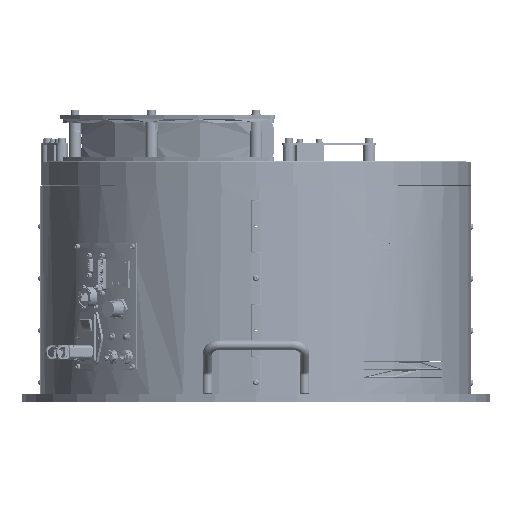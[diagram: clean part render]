
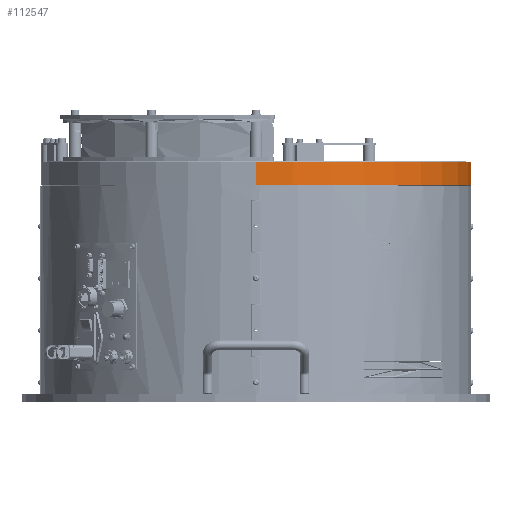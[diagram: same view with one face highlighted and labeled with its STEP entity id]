
A CAD part, top view. The second image highlights one B-rep face of the part: STEP entity #112547.
In plain terms, the highlighted cylindrical face has radius 266.5 mm (diameter 533 mm), a partial arc.
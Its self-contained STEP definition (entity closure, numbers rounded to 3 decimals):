
#4062 = VERTEX_POINT ( 'NONE', #342187 ) ;
#13442 = DIRECTION ( 'NONE',  ( 0., 0., -1. ) ) ;
#43405 = DIRECTION ( 'NONE',  ( 0., 0., 1. ) ) ;
#43703 = AXIS2_PLACEMENT_3D ( 'NONE', #275052, #13442, #211142 ) ;
#50556 = CIRCLE ( 'NONE', #43703, 266.5 ) ;
#51495 = AXIS2_PLACEMENT_3D ( 'NONE', #87116, #43405, #311685 ) ;
#72326 = CARTESIAN_POINT ( 'NONE',  ( 0., 0., 30. ) ) ;
#74246 = VECTOR ( 'NONE', #263293, 1000. ) ;
#81052 = VECTOR ( 'NONE', #115649, 1000. ) ;
#87116 = CARTESIAN_POINT ( 'NONE',  ( 0., 0., 1. ) ) ;
#102422 = VERTEX_POINT ( 'NONE', #393887 ) ;
#106305 = CARTESIAN_POINT ( 'NONE',  ( -266.5, 0., 29. ) ) ;
#109780 = CYLINDRICAL_SURFACE ( 'NONE', #425115, 266.5 ) ;
#112547 = ADVANCED_FACE ( 'NONE', ( #373792 ), #109780, .T. ) ;
#115649 = DIRECTION ( 'NONE',  ( 0., 0., -1. ) ) ;
#128802 = CIRCLE ( 'NONE', #51495, 266.5 ) ;
#158701 = CARTESIAN_POINT ( 'NONE',  ( 0., -266.5, 1. ) ) ;
#201614 = CARTESIAN_POINT ( 'NONE',  ( -266.5, 0., 30. ) ) ;
#211142 = DIRECTION ( 'NONE',  ( 1., 0., 0. ) ) ;
#257497 = EDGE_CURVE ( 'NONE', #102422, #370064, #50556, .T. ) ;
#261695 = EDGE_CURVE ( 'NONE', #370064, #4062, #430768, .T. ) ;
#263293 = DIRECTION ( 'NONE',  ( 0., 0., -1. ) ) ;
#263686 = VERTEX_POINT ( 'NONE', #158701 ) ;
#269748 = ORIENTED_EDGE ( 'NONE', *, *, #261695, .T. ) ;
#274701 = DIRECTION ( 'NONE',  ( 0., 0., -1. ) ) ;
#275052 = CARTESIAN_POINT ( 'NONE',  ( 0., 0., 29. ) ) ;
#278448 = CARTESIAN_POINT ( 'NONE',  ( 0., -266.5, 30. ) ) ;
#298826 = ORIENTED_EDGE ( 'NONE', *, *, #340329, .F. ) ;
#311685 = DIRECTION ( 'NONE',  ( 1., 0., 0. ) ) ;
#336305 = ORIENTED_EDGE ( 'NONE', *, *, #380986, .T. ) ;
#340329 = EDGE_CURVE ( 'NONE', #102422, #263686, #417084, .T. ) ;
#340788 = DIRECTION ( 'NONE',  ( -1., 0., 0. ) ) ;
#342187 = CARTESIAN_POINT ( 'NONE',  ( -266.5, 0., 1. ) ) ;
#370064 = VERTEX_POINT ( 'NONE', #106305 ) ;
#371966 = EDGE_LOOP ( 'NONE', ( #269748, #336305, #298826, #409500 ) ) ;
#373792 = FACE_OUTER_BOUND ( 'NONE', #371966, .T. ) ;
#380986 = EDGE_CURVE ( 'NONE', #4062, #263686, #128802, .T. ) ;
#393887 = CARTESIAN_POINT ( 'NONE',  ( 0., -266.5, 29. ) ) ;
#409500 = ORIENTED_EDGE ( 'NONE', *, *, #257497, .T. ) ;
#417084 = LINE ( 'NONE', #278448, #81052 ) ;
#425115 = AXIS2_PLACEMENT_3D ( 'NONE', #72326, #274701, #340788 ) ;
#430768 = LINE ( 'NONE', #201614, #74246 ) ;
